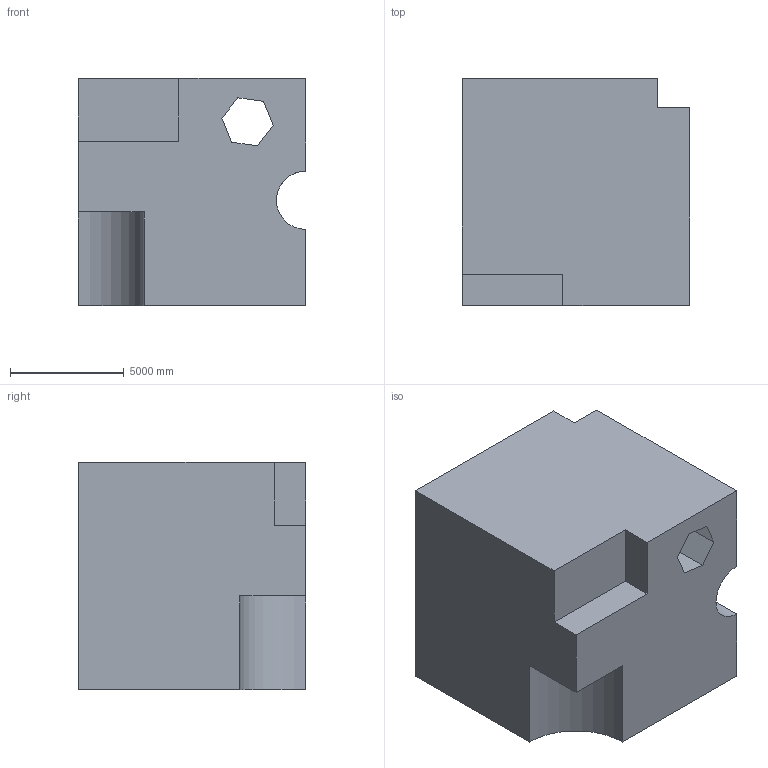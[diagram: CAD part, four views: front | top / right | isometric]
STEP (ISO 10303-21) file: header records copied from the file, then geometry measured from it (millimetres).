
FILE_DESCRIPTION (( 'STEP AP203' ), '1' );
FILE_NAME ('1560.STEP', '2022-08-18T15:48:10', ( 'user' ), ( '' ), 'SwSTEP 2.0', 'SolidWorks 2021', '' );
FILE_SCHEMA (( 'CONFIG_CONTROL_DESIGN' ));
Length unit declared in the file: centimetre
Products named in the file (1): 1560
Bounding box: 10000 x 10000 x 10000 mm (x, y, z)
Volume: 878776081360.7 mm3; surface area: 665243616.2 mm2
Topology: 1 solids, 1 shells, 24 faces, 66 edges, 44 vertices
Faces by surface type: plane 20, cylinder 4
Entity records: 1077 total; most frequent: CARTESIAN_POINT 377, ORIENTED_EDGE 132, DIRECTION 122, EDGE_CURVE 66, VECTOR 56, LINE 56, VERTEX_POINT 44, AXIS2_PLACEMENT_3D 33
